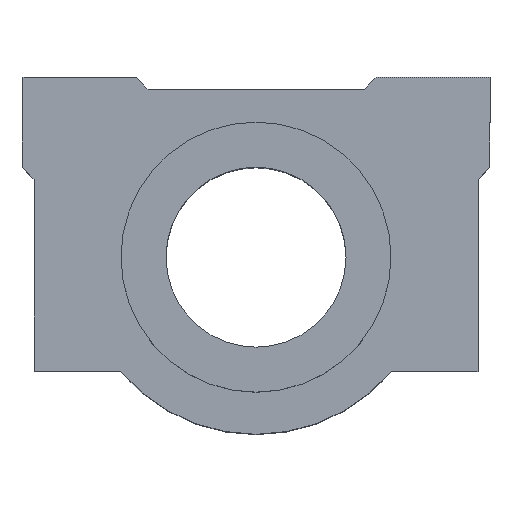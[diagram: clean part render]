
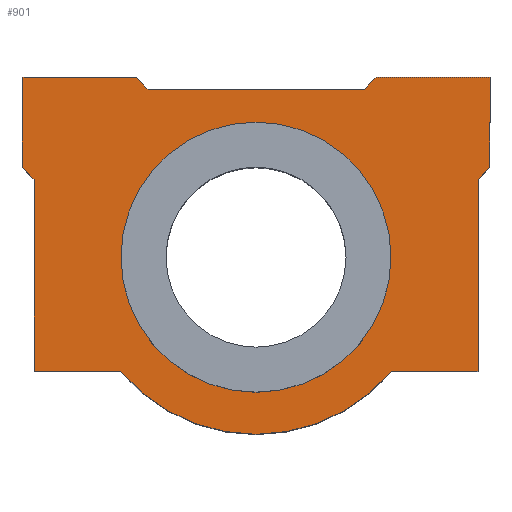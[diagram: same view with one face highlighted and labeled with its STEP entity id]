
A CAD part, top view. The second image highlights one B-rep face of the part: STEP entity #901.
In plain terms, the highlighted planar face has unit normal (0, 0, 1).
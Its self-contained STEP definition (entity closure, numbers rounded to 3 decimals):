
#133=CARTESIAN_POINT('',(-23.209,4.198,52.45));
#134=VERTEX_POINT('',#133);
#143=CARTESIAN_POINT('',(21.791,4.198,52.45));
#144=VERTEX_POINT('',#143);
#145=CARTESIAN_POINT('',(-0.709,4.198,52.45));
#146=DIRECTION('',(0.0,0.0,1.0));
#147=DIRECTION('',(-1.0,0.0,0.0));
#148=AXIS2_PLACEMENT_3D('',#145,#146,#147);
#149=CIRCLE('',#148,22.5);
#150=EDGE_CURVE('',#134,#144,#149,.T.);
#522=CARTESIAN_POINT('',(38.291,19.198,52.45));
#523=VERTEX_POINT('',#522);
#524=CARTESIAN_POINT('',(36.291,17.198,52.45));
#525=VERTEX_POINT('',#524);
#526=CARTESIAN_POINT('',(38.291,19.198,52.45));
#527=DIRECTION('',(-0.707,-0.707,0.0));
#528=VECTOR('',#527,2.828);
#529=LINE('',#526,#528);
#530=EDGE_CURVE('',#523,#525,#529,.T.);
#553=CARTESIAN_POINT('',(36.291,-14.802,52.45));
#554=VERTEX_POINT('',#553);
#555=CARTESIAN_POINT('',(36.291,17.198,52.45));
#556=DIRECTION('',(0.0,-1.0,0.0));
#557=VECTOR('',#556,32.);
#558=LINE('',#555,#557);
#559=EDGE_CURVE('',#525,#554,#558,.T.);
#577=CARTESIAN_POINT('',(21.858,-14.802,52.45));
#578=VERTEX_POINT('',#577);
#579=CARTESIAN_POINT('',(36.291,-14.802,52.45));
#580=DIRECTION('',(-1.0,0.0,0.0));
#581=VECTOR('',#580,14.433);
#582=LINE('',#579,#581);
#583=EDGE_CURVE('',#554,#578,#582,.T.);
#605=CARTESIAN_POINT('',(-23.275,-14.802,52.45));
#606=VERTEX_POINT('',#605);
#607=CARTESIAN_POINT('',(-0.709,4.198,52.45));
#608=DIRECTION('',(0.0,0.0,-1.0));
#609=DIRECTION('',(0.765,0.644,0.0));
#610=AXIS2_PLACEMENT_3D('',#607,#608,#609);
#611=CIRCLE('',#610,29.5);
#612=EDGE_CURVE('',#578,#606,#611,.T.);
#630=CARTESIAN_POINT('',(-37.709,-14.802,52.45));
#631=VERTEX_POINT('',#630);
#632=CARTESIAN_POINT('',(-23.275,-14.802,52.45));
#633=DIRECTION('',(-1.0,0.0,0.0));
#634=VECTOR('',#633,14.433);
#635=LINE('',#632,#634);
#636=EDGE_CURVE('',#606,#631,#635,.T.);
#658=CARTESIAN_POINT('',(-37.709,17.198,52.45));
#659=VERTEX_POINT('',#658);
#660=CARTESIAN_POINT('',(-37.709,-14.802,52.45));
#661=DIRECTION('',(0.0,1.0,0.0));
#662=VECTOR('',#661,32.0);
#663=LINE('',#660,#662);
#664=EDGE_CURVE('',#631,#659,#663,.T.);
#682=CARTESIAN_POINT('',(-39.709,19.198,52.45));
#683=VERTEX_POINT('',#682);
#684=CARTESIAN_POINT('',(-37.709,17.198,52.45));
#685=DIRECTION('',(-0.707,0.707,0.0));
#686=VECTOR('',#685,2.828);
#687=LINE('',#684,#686);
#688=EDGE_CURVE('',#659,#683,#687,.T.);
#706=CARTESIAN_POINT('',(-39.709,34.198,52.45));
#707=VERTEX_POINT('',#706);
#708=CARTESIAN_POINT('',(-39.709,19.198,52.45));
#709=DIRECTION('',(0.0,1.0,0.0));
#710=VECTOR('',#709,15.0);
#711=LINE('',#708,#710);
#712=EDGE_CURVE('',#683,#707,#711,.T.);
#730=CARTESIAN_POINT('',(-20.709,34.198,52.45));
#731=VERTEX_POINT('',#730);
#732=CARTESIAN_POINT('',(-39.709,34.198,52.45));
#733=DIRECTION('',(1.0,0.0,0.0));
#734=VECTOR('',#733,19.);
#735=LINE('',#732,#734);
#736=EDGE_CURVE('',#707,#731,#735,.T.);
#758=CARTESIAN_POINT('',(-18.709,32.198,52.45));
#759=VERTEX_POINT('',#758);
#760=CARTESIAN_POINT('',(-20.709,34.198,52.45));
#761=DIRECTION('',(0.707,-0.707,0.0));
#762=VECTOR('',#761,2.828);
#763=LINE('',#760,#762);
#764=EDGE_CURVE('',#731,#759,#763,.T.);
#782=CARTESIAN_POINT('',(17.291,32.198,52.45));
#783=VERTEX_POINT('',#782);
#784=CARTESIAN_POINT('',(-18.709,32.198,52.45));
#785=DIRECTION('',(1.0,0.0,0.0));
#786=VECTOR('',#785,36.0);
#787=LINE('',#784,#786);
#788=EDGE_CURVE('',#759,#783,#787,.T.);
#806=CARTESIAN_POINT('',(19.291,34.198,52.45));
#807=VERTEX_POINT('',#806);
#808=CARTESIAN_POINT('',(17.291,32.198,52.45));
#809=DIRECTION('',(0.707,0.707,0.0));
#810=VECTOR('',#809,2.828);
#811=LINE('',#808,#810);
#812=EDGE_CURVE('',#783,#807,#811,.T.);
#830=CARTESIAN_POINT('',(38.291,34.198,52.45));
#831=VERTEX_POINT('',#830);
#832=CARTESIAN_POINT('',(19.291,34.198,52.45));
#833=DIRECTION('',(1.0,0.0,0.0));
#834=VECTOR('',#833,19.0);
#835=LINE('',#832,#834);
#836=EDGE_CURVE('',#807,#831,#835,.T.);
#858=CARTESIAN_POINT('',(38.291,34.198,52.45));
#859=DIRECTION('',(0.0,-1.0,0.0));
#860=VECTOR('',#859,15.);
#861=LINE('',#858,#860);
#862=EDGE_CURVE('',#831,#523,#861,.T.);
#870=CARTESIAN_POINT('',(-0.709,8.165,52.45));
#871=DIRECTION('',(0.0,0.0,1.0));
#872=DIRECTION('',(1.0,0.0,0.0));
#873=AXIS2_PLACEMENT_3D('',#870,#871,#872);
#874=PLANE('',#873);
#875=ORIENTED_EDGE('',*,*,#530,.F.);
#876=ORIENTED_EDGE('',*,*,#862,.F.);
#877=ORIENTED_EDGE('',*,*,#836,.F.);
#878=ORIENTED_EDGE('',*,*,#812,.F.);
#879=ORIENTED_EDGE('',*,*,#788,.F.);
#880=ORIENTED_EDGE('',*,*,#764,.F.);
#881=ORIENTED_EDGE('',*,*,#736,.F.);
#882=ORIENTED_EDGE('',*,*,#712,.F.);
#883=ORIENTED_EDGE('',*,*,#688,.F.);
#884=ORIENTED_EDGE('',*,*,#664,.F.);
#885=ORIENTED_EDGE('',*,*,#636,.F.);
#886=ORIENTED_EDGE('',*,*,#612,.F.);
#887=ORIENTED_EDGE('',*,*,#583,.F.);
#888=ORIENTED_EDGE('',*,*,#559,.F.);
#889=EDGE_LOOP('',(#875,#876,#877,#878,#879,#880,#881,#882,#883,#884,#885,#886,#887,#888));
#890=FACE_OUTER_BOUND('',#889,.T.);
#891=CARTESIAN_POINT('',(-0.709,4.198,52.45));
#892=DIRECTION('',(0.0,0.0,1.0));
#893=DIRECTION('',(-1.0,0.0,0.0));
#894=AXIS2_PLACEMENT_3D('',#891,#892,#893);
#895=CIRCLE('',#894,22.5);
#896=EDGE_CURVE('',#144,#134,#895,.T.);
#897=ORIENTED_EDGE('',*,*,#896,.F.);
#898=ORIENTED_EDGE('',*,*,#150,.F.);
#899=EDGE_LOOP('',(#897,#898));
#900=FACE_BOUND('',#899,.T.);
#901=ADVANCED_FACE('',(#890,#900),#874,.T.);
